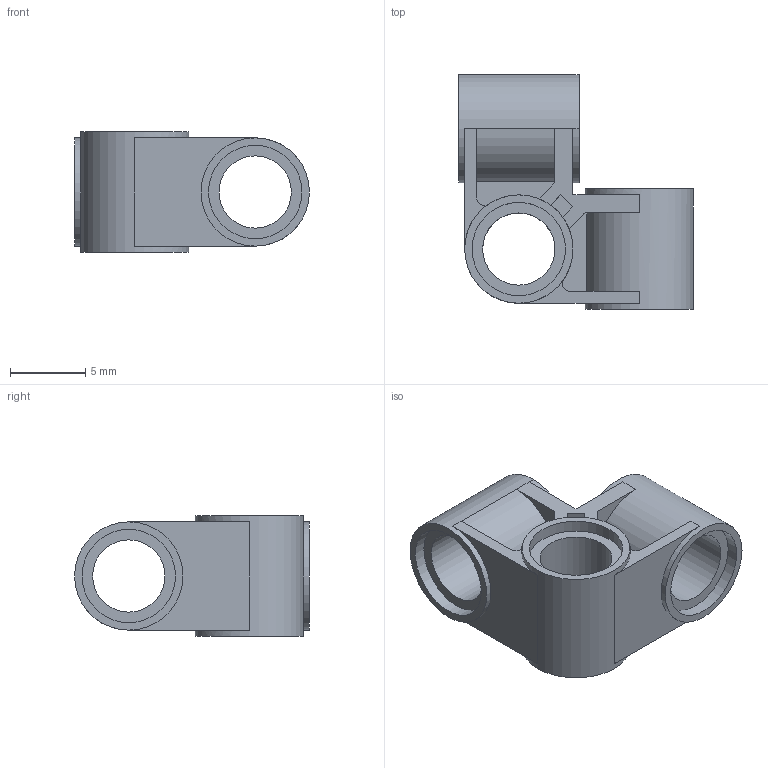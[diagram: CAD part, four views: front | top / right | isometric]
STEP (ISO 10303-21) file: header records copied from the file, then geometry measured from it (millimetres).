
FILE_DESCRIPTION(/* description */ ('Unknown'),/* implementation_level */ '2;1');
FILE_NAME(/* name */ 'Black_4195022_AVV',/* time_stamp */ '2025-07-21T23:46:50+02:00',/* author */ ('Unknown'),/* organization */ ('Unknown'),/* preprocessor_version */ 'ST-DEVELOPER v19.4',/* originating_system */ 'Solid Edge',/* authorisation */ 'Unknown');
FILE_SCHEMA (('AUTOMOTIVE_DESIGN {1 0 10303 214 3 1 1}'));
Length unit declared in the file: millimetre
Products named in the file (1): Black_4195022_AVV
Bounding box: 15.6 x 15.6 x 8 mm (x, y, z)
Volume: 584.1 mm3; surface area: 1141.2 mm2
Topology: 1 solids, 1 shells, 82 faces, 212 edges, 136 vertices
Faces by surface type: plane 62, cylinder 20
Full cylindrical faces by diameter (mm): 4.8 x3, 6.2 x4, 7.2 x3
Entity records: 2415 total; most frequent: DIRECTION 423, CARTESIAN_POINT 408, ORIENTED_EDGE 390, EDGE_CURVE 195, AXIS2_PLACEMENT_3D 147, VERTEX_POINT 132, LINE 129, VECTOR 129
